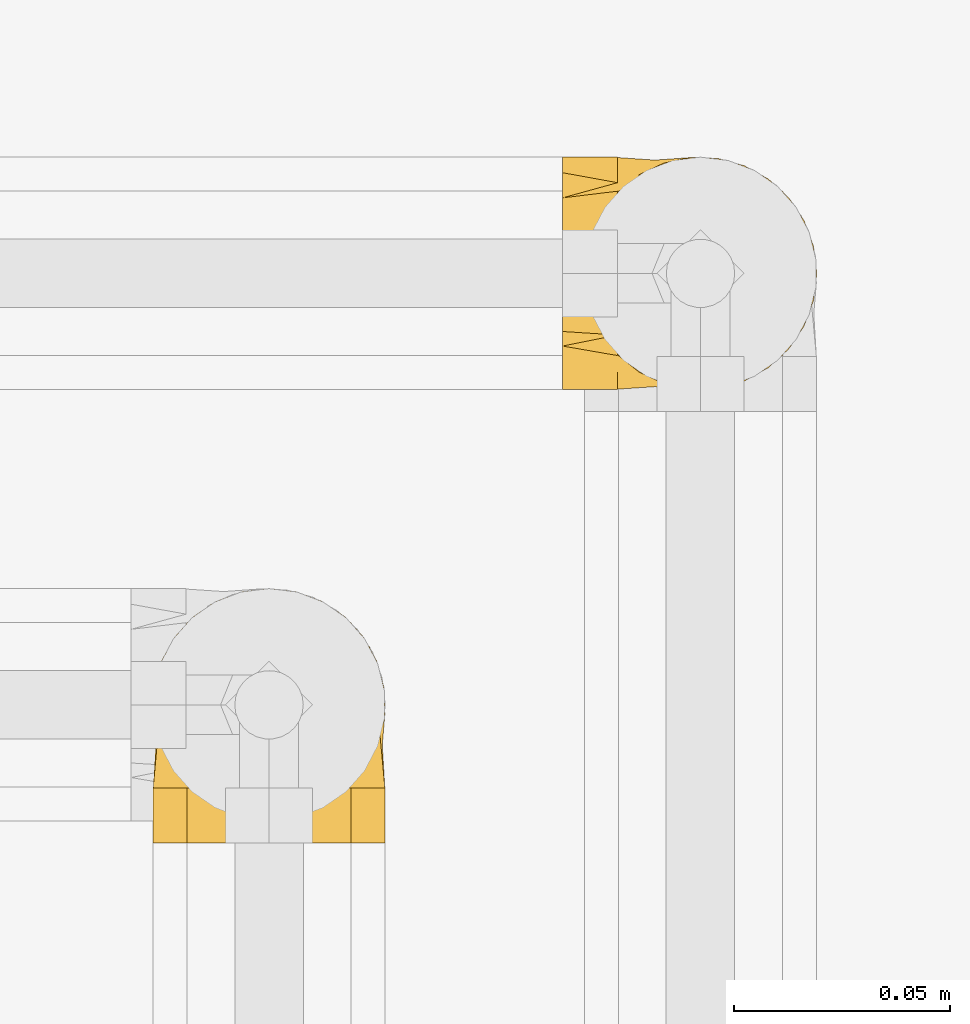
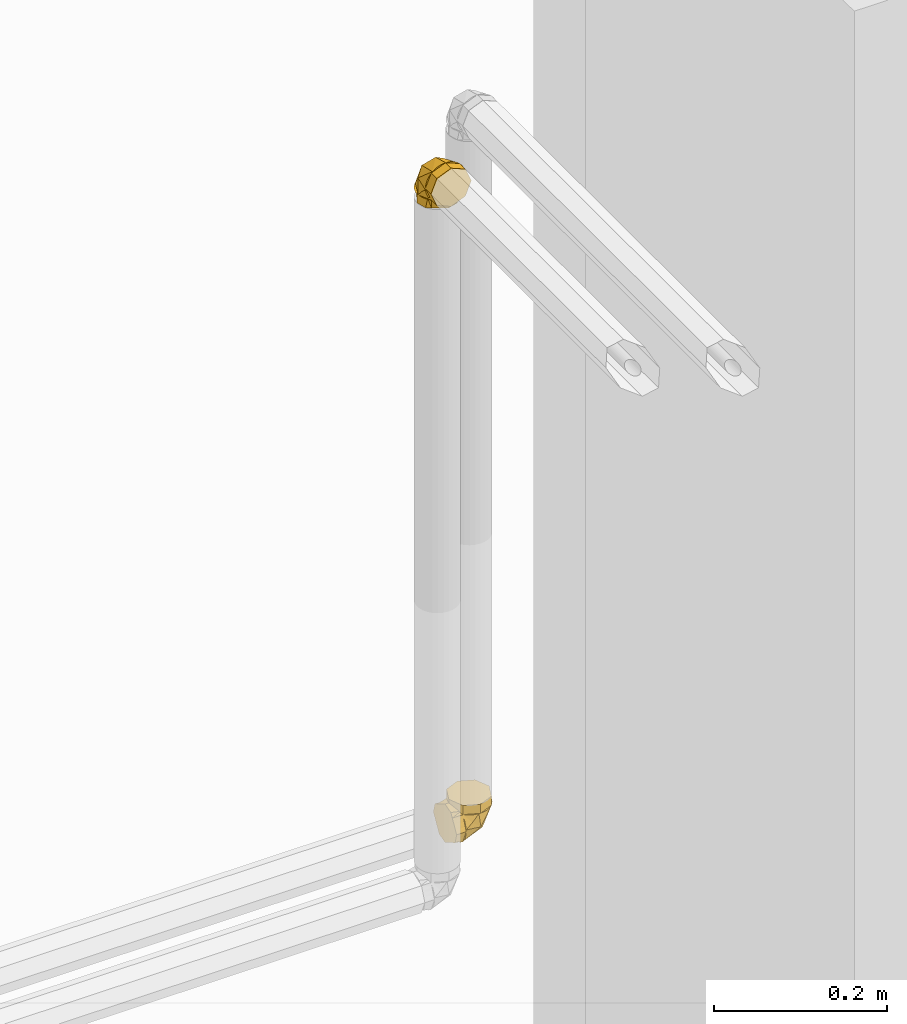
# One storey, part 377 of 652: 2 coverings.
"""IFC2X3 building model written with IfcOpenShell, lengths in millimetres."""

from ifc_helpers import new_model, entity, si_unit, converted_unit, direction, frame, origin, place, context, subcontext, project, spatial, face_set, surface_model, material, type_object, element, save


model = new_model("IFC2X3")

# Units and contexts
model_context = context("Model", 3, precision=0.01, world=frame((0.0, 0.0, 308426.39999999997)), true_north=direction((6.123233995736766e-17, 1.0)))
plan_context = context("Plan", 3, precision=0.01, world=frame((0.0, 0.0, 308426.39999999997)), true_north=direction((6.123233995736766e-17, 1.0)))
body_context = subcontext(model_context, "Body", "Model", "MODEL_VIEW")
ifc_project = project(units=[si_unit("LENGTHUNIT", "METRE", prefix="MILLI"), si_unit("AREAUNIT", "SQUARE_METRE"), si_unit("VOLUMEUNIT", "CUBIC_METRE"), converted_unit("PLANEANGLEUNIT", "DEGREE", entity("IfcPlaneAngleMeasure", 0.017453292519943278), si_unit("PLANEANGLEUNIT", "RADIAN"), dimensions=[0, 0, 0, 0, 0, 0, 0])], contexts=[model_context, plan_context])

# Site, building, storey
site_placement = place(None, origin())
site = spatial("IfcSite", under=ifc_project, at=site_placement, Name="Default", CompositionType="ELEMENT")
building_placement = place(site_placement, origin())
building = spatial("IfcBuilding", under=site, at=building_placement, CompositionType="ELEMENT")
storey_placement = place(building_placement, frame((0.0, 0.0, 1730.6999999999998)))
storey = spatial("IfcBuildingStorey", under=building, at=storey_placement, Name="EG_Produktion_FFB", CompositionType="ELEMENT", Elevation=1730.6999999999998)

# Coverings
ifc_material = material(Name="Dämmung - Armaflex-Schlauch")
covering_type = type_object("IfcCoveringType", Name="Rohrdämmung außen:Armaflex-Schlauch", PredefinedType="INSULATION")
covering_1_placement = place(storey_placement, frame((52368.016249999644, 50393.50378550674, 2671.4672277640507)))
element("IfcCovering", 1, at=covering_1_placement, inside=storey, type_object=covering_type, material=ifc_material, Name="Rohrdämmung außen:Armaflex-Schlauch", ObjectType="Rohrdämmung außen:Armaflex-Schlauch", PredefinedType="INSULATION", context=body_context, shape_type="SurfaceModel", body=[
    surface_model("IfcFaceBasedSurfaceModel", [(12.766249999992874, 9.65642195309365, 47.750272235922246), (17.724287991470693, 5.678961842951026, 47.750272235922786), (23.47627931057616, 2.973980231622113, 47.750272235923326), (29.70195853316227, 1.6920879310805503, 47.75027223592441), (36.054685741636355, 1.904659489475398, 47.75027223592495), (42.1807471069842, 3.599859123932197, 47.75027223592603), (47.7390493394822, 6.683299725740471, 47.75027223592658), (52.420111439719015, 10.983298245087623, 47.75027223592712), (55.963296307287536, 16.26043484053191, 47.75027223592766), (58.17132276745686, 22.220883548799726, 47.75027223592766), (58.921249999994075, 28.532772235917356, 47.75027223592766), (58.17132276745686, 34.844660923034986, 47.75027223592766), (55.963296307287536, 40.8051096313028, 47.75027223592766), (52.420111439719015, 46.08224622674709, 47.75027223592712), (47.7390493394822, 50.38224474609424, 47.75027223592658), (42.1807471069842, 53.465685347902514, 47.75027223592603), (36.054685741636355, 55.16088498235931, 47.75027223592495), (29.70195853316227, 55.37345654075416, 47.75027223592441), (23.47627931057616, 54.0915642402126, 47.750272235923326), (17.724287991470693, 51.38658262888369, 47.750272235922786), (12.766249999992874, 47.409122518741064, 47.750272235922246), (12.766249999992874, 51.38658262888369, 42.79223424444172), (12.766249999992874, 54.0915642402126, 37.04024292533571), (12.766249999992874, 55.37345654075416, 30.81456370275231), (12.766249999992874, 55.16088498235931, 24.46183649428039), (12.766249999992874, 53.465685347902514, 18.33577512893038), (12.766249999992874, 50.38224474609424, 12.777472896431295), (12.766250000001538, 46.08224622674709, 8.096410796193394), (12.766250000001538, 40.8051096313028, 4.553225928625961), (12.766250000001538, 34.844660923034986, 2.3451994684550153), (12.766250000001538, 28.532772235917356, 1.5952722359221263), (12.766250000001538, 22.220883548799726, 2.3451994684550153), (12.766250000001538, 16.26043484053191, 4.553225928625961), (12.766250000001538, 10.983298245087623, 8.096410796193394), (12.766249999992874, 6.683299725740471, 12.777472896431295), (12.766249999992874, 3.599859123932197, 18.33577512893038), (12.766249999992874, 1.904659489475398, 24.46183649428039), (12.766249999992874, 1.6920879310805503, 30.81456370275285), (12.766249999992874, 2.973980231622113, 37.04024292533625), (12.766249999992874, 5.678961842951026, 42.79223424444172), (21.446420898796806, 2.2759264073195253, 37.80740068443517), (52.73753418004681, 28.534788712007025, 24.672737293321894), (33.566611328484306, 3.601426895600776, 26.951086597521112), (41.059177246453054, 6.336143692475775, 47.750398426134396), (31.031882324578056, 28.534788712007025, 12.139781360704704), (41.84052490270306, 14.284495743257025, 17.33248765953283), (12.767880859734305, 6.336143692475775, 19.455613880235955), (41.84052490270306, 42.78043080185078, 17.33248765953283), (33.566611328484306, 53.46349964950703, 26.951086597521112), (21.446420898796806, 54.78900013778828, 37.80740068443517), (12.767880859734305, 50.72878285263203, 19.455613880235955), (41.059177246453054, 50.72878285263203, 47.750398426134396), (53.00389168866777, 14.247005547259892, 60.51652223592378), (54.97634445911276, 19.008927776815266, 60.51652223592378), (56.94879722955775, 23.770850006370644, 60.51652223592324), (58.921250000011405, 28.532772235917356, 60.5165222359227), (56.94879722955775, 33.29469446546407, 60.51652223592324), (54.97634445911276, 38.05661669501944, 60.51652223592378), (53.00389168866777, 42.81853892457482, 60.51652223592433), (51.03143891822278, 47.5804611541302, 60.51652223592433), (46.26951668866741, 49.552913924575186, 60.51652223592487), (41.507594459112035, 51.525366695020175, 60.51652223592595), (36.74567222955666, 53.49781946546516, 60.51652223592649), (31.983750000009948, 55.47027223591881, 60.516522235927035), (27.221827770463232, 53.497819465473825, 60.516522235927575), (22.459905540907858, 51.525366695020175, 60.516522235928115), (17.697983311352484, 49.552913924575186, 60.516522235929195), (12.936061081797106, 47.5804611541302, 60.51652223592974), (10.963608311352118, 42.81853892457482, 60.51652223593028), (8.99115554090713, 38.05661669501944, 60.51652223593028), (7.018702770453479, 33.29469446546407, 60.51652223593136), (5.046250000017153, 28.532772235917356, 60.51652223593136), (7.018702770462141, 23.77085000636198, 60.51652223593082), (8.99115554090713, 19.008927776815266, 60.51652223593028), (10.963608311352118, 14.247005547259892, 60.51652223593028), (12.936061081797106, 9.485083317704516, 60.51652223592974), (17.697983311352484, 7.512630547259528, 60.516522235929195), (22.459905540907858, 5.54017777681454, 60.516522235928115), (27.22182777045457, 3.567725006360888, 60.516522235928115), (31.983750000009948, 1.5952722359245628, 60.516522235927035), (36.74567222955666, 3.567725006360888, 60.51652223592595), (41.507594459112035, 5.54017777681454, 60.51652223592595), (46.26951668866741, 7.512630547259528, 60.51652223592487), (51.03143891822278, 9.485083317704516, 60.51652223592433), (58.92125000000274, 28.532772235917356, 47.75027223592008), (56.94879722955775, 23.77085000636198, 47.75027223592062), (54.97634445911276, 19.008927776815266, 47.750272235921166), (53.00389168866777, 14.247005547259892, 47.750272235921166), (51.03143891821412, 9.485083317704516, 47.750272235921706), (45.26304951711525, 7.095738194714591, 47.750272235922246), (39.49466011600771, 4.706393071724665, 47.750272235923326), (31.983750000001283, 1.5952722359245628, 47.75027223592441), (27.22182777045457, 3.567725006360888, 47.75027223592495), (22.459905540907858, 5.54017777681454, 47.75027223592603), (17.697983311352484, 7.512630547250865, 47.75027223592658), (12.936061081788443, 9.485083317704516, 47.75027223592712), (10.546715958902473, 15.253472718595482, 47.75027223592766), (8.157370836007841, 21.021862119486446, 47.75027223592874), (5.046250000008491, 28.532772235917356, 47.75027223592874), (7.018702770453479, 33.29469446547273, 47.7502722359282), (8.99115554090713, 38.05661669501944, 47.7502722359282), (10.963608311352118, 42.81853892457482, 47.7502722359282), (12.936061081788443, 47.5804611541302, 47.75027223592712), (18.704450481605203, 49.96980627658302, 47.75027223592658), (24.472839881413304, 52.359151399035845, 47.75027223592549), (31.983750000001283, 55.47027223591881, 47.75027223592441), (36.74567222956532, 53.497819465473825, 47.75027223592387), (41.507594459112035, 51.525366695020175, 47.750272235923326), (46.26951668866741, 49.552913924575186, 47.750272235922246), (51.03143891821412, 47.5804611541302, 47.750272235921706), (53.420784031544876, 41.81207177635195, 47.750272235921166), (55.81012914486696, 36.0436823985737, 47.750272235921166), (0.0, 28.532772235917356, 1.5952722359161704), (0.0, 22.700632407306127, 4.962459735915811), (0.0, 16.868492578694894, 8.329647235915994), (0.0, 11.036352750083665, 11.696834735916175), (0.0, 5.204212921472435, 15.064022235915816), (0.0, 3.3997425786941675, 21.798397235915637), (0.0, 1.5952722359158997, 28.532772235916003), (0.0, 4.962459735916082, 34.36491206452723), (0.0, 8.329647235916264, 40.19705189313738), (0.0, 11.696834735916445, 46.02919172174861), (0.0, 15.064022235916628, 51.861331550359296), (0.0, 21.79839723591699, 53.66580189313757), (0.0, 28.532772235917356, 55.470272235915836), (0.0, 34.36491206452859, 52.10308473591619), (0.0, 40.197051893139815, 48.73589723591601), (0.0, 46.02919172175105, 45.36870973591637), (0.0, 51.86133155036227, 42.00152223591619), (0.0, 53.66580189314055, 35.26714723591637), (0.0, 55.47027223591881, 28.532772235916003), (0.0, 52.10308473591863, 22.700632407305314), (0.0, 48.73589723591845, 16.868492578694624), (0.0, 45.368709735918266, 11.036352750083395), (0.0, 42.00152223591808, 5.204212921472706), (0.0, 35.26714723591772, 3.3997425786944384), (12.766250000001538, 28.532772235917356, 1.5952722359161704), (12.766250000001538, 33.29469446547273, 3.567725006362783), (12.766250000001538, 38.05661669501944, 5.540177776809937), (12.766250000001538, 42.81853892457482, 7.512630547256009), (12.766250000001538, 47.5804611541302, 9.485083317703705), (12.766250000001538, 49.552913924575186, 14.247005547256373), (12.766250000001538, 51.525366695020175, 19.008927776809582), (12.766250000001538, 53.49781946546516, 23.770850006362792), (12.766250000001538, 55.47027223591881, 28.532772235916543), (12.766250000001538, 53.497819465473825, 33.29469446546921), (12.766250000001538, 51.525366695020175, 38.05661669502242), (12.766250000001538, 49.552913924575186, 42.818538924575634), (12.766250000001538, 47.5804611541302, 47.58046115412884), (12.766250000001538, 42.81853892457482, 49.552913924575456), (12.766250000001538, 38.05661669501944, 51.525366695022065), (12.766250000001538, 33.29469446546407, 53.49781946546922), (12.766250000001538, 28.532772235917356, 55.470272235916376), (12.766250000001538, 23.770850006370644, 53.49781946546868), (12.766250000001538, 19.008927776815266, 51.525366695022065), (12.766250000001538, 14.247005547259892, 49.552913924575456), (12.766250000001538, 9.485083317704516, 47.58046115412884), (12.766250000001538, 7.512630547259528, 42.818538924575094), (12.766250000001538, 5.54017777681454, 38.05661669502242), (12.766250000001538, 3.567725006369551, 33.29469446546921), (12.766250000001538, 1.5952722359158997, 28.532772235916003), (12.766250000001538, 3.567725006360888, 23.770850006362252), (12.766250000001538, 5.54017777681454, 19.008927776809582), (12.766250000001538, 7.512630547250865, 14.247005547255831), (12.766250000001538, 9.485083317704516, 9.485083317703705), (12.766250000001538, 14.247005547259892, 7.512630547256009), (12.766250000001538, 19.008927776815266, 5.540177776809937), (12.766250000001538, 23.77085000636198, 3.5677250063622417)], [face_set([[[0, 1, 2, 3, 4, 5, 6, 7, 8, 9, 10, 11, 12, 13, 14, 15, 16, 17, 18, 19]], [[20, 21, 22, 23, 24, 25, 26, 27, 28, 29, 30, 31, 32, 33, 34, 35, 36, 37, 38, 39]], [[0, 40, 3]], [[10, 7, 41]], [[37, 42, 40]], [[42, 7, 43]], [[37, 40, 0]], [[3, 40, 42]], [[44, 41, 45]], [[7, 45, 41]], [[33, 30, 44]], [[44, 45, 33]], [[42, 33, 45]], [[42, 37, 46]], [[7, 42, 45]], [[43, 3, 42]], [[46, 33, 42]], [[13, 10, 41]], [[27, 47, 44]], [[44, 30, 27]], [[48, 47, 27]], [[49, 48, 23]], [[48, 50, 23]], [[44, 47, 41]], [[20, 49, 23]], [[47, 48, 13]], [[17, 49, 20]], [[41, 47, 13]], [[48, 17, 51]], [[48, 27, 50]], [[17, 48, 49]], [[51, 13, 48]]]), face_set([[[52, 53, 54, 55, 56, 57, 58, 59, 60, 61, 62, 63, 64, 65, 66, 67, 68, 69, 70, 71, 72, 73, 74, 75, 76, 77, 78, 79, 80, 81, 82, 83]], [[84, 85, 86, 87, 88, 89, 90, 91, 92, 93, 94, 95, 96, 97, 98, 99, 100, 101, 102, 103, 104, 105, 106, 107, 108, 109, 110, 111]], [[111, 110, 109, 59, 58, 57, 56, 55, 84]], [[59, 109, 108, 107, 106, 105, 63, 62, 61, 60]], [[104, 103, 102, 67, 66, 65, 64, 63, 105]], [[67, 102, 101, 100, 99, 98, 71, 70, 69, 68]], [[97, 96, 95, 75, 74, 73, 72, 71, 98]], [[75, 95, 94, 93, 92, 91, 79, 78, 77, 76]], [[90, 89, 88, 83, 82, 81, 80, 79, 91]], [[83, 88, 87, 86, 85, 84, 55, 54, 53, 52]]]), face_set([[[112, 113, 114, 115, 116, 117, 118, 119, 120, 121, 122, 123, 124, 125, 126, 127, 128, 129, 130, 131, 132, 133, 134, 135]], [[136, 137, 138, 139, 140, 141, 142, 143, 144, 145, 146, 147, 148, 149, 150, 151, 152, 153, 154, 155, 156, 157, 158, 159, 160, 161, 162, 163, 164, 165, 166, 167]], [[155, 121, 156]], [[118, 159, 119]], [[159, 158, 119]], [[123, 154, 153]], [[153, 152, 124]], [[121, 155, 122]], [[120, 158, 157]], [[118, 160, 159]], [[158, 120, 119]], [[124, 123, 153]], [[157, 156, 121]], [[155, 154, 122]], [[123, 122, 154]], [[120, 157, 121]], [[163, 115, 164]], [[112, 167, 113]], [[167, 166, 113]], [[117, 162, 161]], [[161, 160, 118]], [[115, 163, 116]], [[114, 166, 165]], [[112, 136, 167]], [[166, 114, 113]], [[118, 117, 161]], [[165, 164, 115]], [[163, 162, 116]], [[117, 116, 162]], [[114, 165, 115]], [[139, 133, 140]], [[130, 143, 131]], [[143, 142, 131]], [[135, 138, 137]], [[137, 136, 112]], [[133, 139, 134]], [[132, 142, 141]], [[130, 144, 143]], [[142, 132, 131]], [[112, 135, 137]], [[141, 140, 133]], [[139, 138, 134]], [[135, 134, 138]], [[132, 141, 133]], [[147, 127, 148]], [[124, 151, 125]], [[151, 150, 125]], [[129, 146, 145]], [[145, 144, 130]], [[127, 147, 128]], [[126, 150, 149]], [[124, 152, 151]], [[150, 126, 125]], [[130, 129, 145]], [[149, 148, 127]], [[147, 146, 128]], [[129, 128, 146]], [[126, 149, 127]]])]),
])
covering_2_placement = place(storey_placement, frame((52271.46722776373, 50290.05280774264, 3728.5327722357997)))
element("IfcCovering", 2, at=covering_2_placement, inside=storey, type_object=covering_type, material=ifc_material, Name="Rohrdämmung außen:Armaflex-Schlauch", ObjectType="Rohrdämmung außen:Armaflex-Schlauch", PredefinedType="INSULATION", context=body_context, shape_type="SurfaceModel", body=[
    surface_model("IfcFaceBasedSurfaceModel", [(47.409122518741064, 12.766250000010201, -47.75027223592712), (51.38658262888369, 12.766250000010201, -42.79223424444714), (54.0915642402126, 12.766250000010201, -37.040242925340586), (55.37345654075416, 12.766250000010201, -30.814563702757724), (55.16088498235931, 12.766250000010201, -24.461836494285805), (53.465685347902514, 12.766250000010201, -18.335775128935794), (50.38224474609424, 12.766250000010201, -12.77747289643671), (46.08224622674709, 12.766250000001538, -8.096410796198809), (40.8051096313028, 12.766250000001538, -4.553225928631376), (34.844660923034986, 12.766250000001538, -2.3451994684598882), (28.532772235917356, 12.766250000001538, -1.595272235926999), (22.220883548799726, 12.766250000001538, -2.3451994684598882), (16.26043484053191, 12.766250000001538, -4.553225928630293), (10.983298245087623, 12.766250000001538, -8.096410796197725), (6.683299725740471, 12.766250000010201, -12.77747289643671), (3.599859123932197, 12.766250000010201, -18.33577512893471), (1.904659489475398, 12.766250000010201, -24.461836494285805), (1.6920879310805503, 12.766250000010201, -30.814563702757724), (2.973980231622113, 12.766250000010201, -37.040242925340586), (5.678961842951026, 12.766250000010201, -42.79223424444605), (9.65642195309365, 12.766250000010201, -47.75027223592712), (5.678961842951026, 17.72428799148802, -47.75027223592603), (2.973980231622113, 23.476279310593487, -47.75027223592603), (1.6920879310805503, 29.701958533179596, -47.75027223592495), (1.904659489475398, 36.05468574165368, -47.75027223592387), (3.599859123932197, 42.18074710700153, -47.75027223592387), (6.683299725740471, 47.73904933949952, -47.750272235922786), (10.983298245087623, 52.420111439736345, -47.750272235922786), (16.26043484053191, 55.96329630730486, -47.750272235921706), (22.220883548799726, 58.17132276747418, -47.750272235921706), (28.532772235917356, 58.921250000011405, -47.750272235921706), (34.844660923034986, 58.17132276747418, -47.750272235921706), (40.8051096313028, 55.96329630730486, -47.750272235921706), (46.08224622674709, 52.420111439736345, -47.750272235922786), (50.38224474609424, 47.73904933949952, -47.750272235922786), (53.465685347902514, 42.18074710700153, -47.75027223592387), (55.16088498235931, 36.05468574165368, -47.75027223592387), (55.37345654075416, 29.701958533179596, -47.75027223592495), (54.0915642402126, 23.476279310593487, -47.75027223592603), (51.38658262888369, 17.72428799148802, -47.75027223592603), (54.789998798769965, 22.70871569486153, -39.069426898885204), (28.531136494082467, 35.842797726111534, -7.778894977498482), (50.729781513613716, 12.765136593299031, -19.455507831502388), (53.464498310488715, 33.563867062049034, -26.950980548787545), (42.78142946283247, 43.18188464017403, -18.674741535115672), (28.531136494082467, 48.376916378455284, -29.486290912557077), (50.729781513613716, 41.06108385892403, -47.750292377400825), (14.285494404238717, 43.18188464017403, -18.674741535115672), (3.5977746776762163, 33.563867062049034, -26.950980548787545), (2.276925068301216, 22.70871569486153, -39.069426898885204), (6.337142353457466, 41.06108385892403, -47.750292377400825), (6.337142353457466, 12.765136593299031, -19.455507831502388), (28.532772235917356, 0.0, -1.5952722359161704), (23.77085000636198, 0.0, -3.567725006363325), (19.008927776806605, 0.0, -5.540177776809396), (14.247005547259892, 0.0, -7.51263054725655), (9.485083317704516, 0.0, -9.485083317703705), (7.512630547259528, 0.0, -14.247005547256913), (5.540177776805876, 0.0, -19.008927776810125), (3.567725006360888, 0.0, -23.770850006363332), (1.5952722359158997, 0.0, -28.532772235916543), (3.567725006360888, 0.0, -33.29469446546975), (5.540177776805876, 0.0, -38.05661669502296), (7.512630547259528, 0.0, -42.818538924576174), (9.485083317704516, 0.0, -47.58046115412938), (14.247005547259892, 0.0, -49.552913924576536), (19.008927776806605, 0.0, -51.52536669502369), (23.77085000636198, 0.0, -53.49781946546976), (28.532772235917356, 0.0, -55.470272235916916), (33.29469446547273, 0.0, -53.49781946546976), (38.056616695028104, 0.0, -51.52536669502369), (42.818538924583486, 0.0, -49.552913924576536), (47.5804611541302, 0.0, -47.58046115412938), (49.552913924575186, 0.0, -42.818538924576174), (51.525366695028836, 0.0, -38.05661669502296), (53.497819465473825, 0.0, -33.29469446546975), (55.47027223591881, 0.0, -28.532772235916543), (53.497819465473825, 0.0, -23.770850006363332), (51.525366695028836, 0.0, -19.008927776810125), (49.552913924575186, 0.0, -14.247005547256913), (47.5804611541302, 0.0, -9.485083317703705), (42.81853892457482, 0.0, -7.51263054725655), (38.056616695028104, 0.0, -5.540177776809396), (33.29469446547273, 0.0, -3.567725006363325), (28.532772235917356, 12.766250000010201, -1.5952722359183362), (33.29469446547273, 12.766250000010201, -3.567725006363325), (38.056616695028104, 12.766250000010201, -5.540177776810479), (42.81853892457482, 12.766250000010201, -7.512630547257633), (47.5804611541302, 12.766250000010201, -9.48508331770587), (49.96980627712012, 12.766250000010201, -15.25347271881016), (52.35915140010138, 12.766250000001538, -21.021862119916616), (55.47027223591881, 12.766250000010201, -28.53277223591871), (53.497819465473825, 12.766250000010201, -33.29469446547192), (51.525366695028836, 12.766250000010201, -38.05661669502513), (49.552913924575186, 12.766250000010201, -42.81853892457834), (47.5804611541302, 12.766250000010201, -47.58046115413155), (41.81207175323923, 12.766250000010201, -49.96980627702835), (36.04368235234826, 12.766250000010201, -52.35915139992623), (28.532772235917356, 12.766250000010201, -55.47027223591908), (23.77085000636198, 12.766250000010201, -53.49781946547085), (19.008927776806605, 12.766250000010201, -51.52536669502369), (14.247005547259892, 12.766250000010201, -49.552913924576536), (9.485083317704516, 12.766250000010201, -47.58046115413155), (7.095738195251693, 12.766250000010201, -41.81207175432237), (4.706393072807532, 12.766250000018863, -36.04368235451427), (1.5952722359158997, 12.766250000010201, -28.53277223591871), (3.567725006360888, 12.766250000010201, -23.7708500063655), (5.540177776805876, 12.766250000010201, -19.00892777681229), (7.512630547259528, 12.766250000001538, -14.24700554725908), (9.485083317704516, 12.766250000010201, -9.48508331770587), (15.253472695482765, 12.766250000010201, -7.09573820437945), (21.021862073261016, 12.766250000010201, -4.7063930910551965), (28.532772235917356, 58.921250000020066, -60.51652223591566), (34.36491206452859, 55.55406250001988, -60.51652223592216), (40.197051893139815, 52.186875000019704, -60.51652223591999), (46.02919172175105, 48.81968750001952, -60.516522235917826), (51.86133155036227, 45.452500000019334, -60.51652223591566), (53.66580189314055, 38.71812500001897, -60.51652223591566), (55.47027223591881, 31.98375000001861, -60.51652223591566), (52.10308473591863, 26.15161017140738, -60.51652223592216), (48.73589723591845, 20.319470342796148, -60.51652223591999), (45.368709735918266, 14.487330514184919, -60.516522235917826), (42.00152223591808, 8.65519068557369, -60.51652223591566), (35.26714723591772, 6.850720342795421, -60.51652223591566), (28.532772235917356, 5.046250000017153, -60.51652223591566), (22.700632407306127, 8.413437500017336, -60.51652223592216), (16.868492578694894, 11.780625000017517, -60.51652223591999), (11.036352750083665, 15.1478125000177, -60.516522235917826), (5.204212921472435, 18.51500000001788, -60.51652223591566), (3.3997425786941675, 25.249375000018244, -60.51652223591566), (1.5952722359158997, 31.98375000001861, -60.51652223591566), (4.962459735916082, 37.81588982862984, -60.51652223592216), (8.329647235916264, 43.64802965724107, -60.51652223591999), (11.696834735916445, 49.4801694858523, -60.516522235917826), (15.064022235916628, 55.312309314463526, -60.51652223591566), (21.79839723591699, 57.1167796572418, -60.51652223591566), (28.532772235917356, 58.921250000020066, -47.75027223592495), (23.77085000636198, 56.94879722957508, -47.75027223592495), (19.008927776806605, 54.97634445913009, -47.75027223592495), (14.247005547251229, 53.00389168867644, -47.75027223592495), (9.485083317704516, 51.03143891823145, -47.75027223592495), (7.512630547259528, 46.26951668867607, -47.75027223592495), (5.540177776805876, 41.50759445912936, -47.75027223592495), (3.567725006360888, 36.745672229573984, -47.75027223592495), (1.5952722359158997, 31.98375000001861, -47.75027223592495), (3.567725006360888, 27.221827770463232, -47.75027223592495), (5.540177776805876, 22.459905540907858, -47.75027223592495), (7.512630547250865, 17.697983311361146, -47.75027223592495), (9.485083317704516, 12.93606108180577, -47.75027223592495), (14.247005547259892, 10.963608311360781, -47.75027223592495), (19.008927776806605, 8.99115554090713, -47.75027223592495), (23.77085000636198, 7.018702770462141, -47.75027223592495), (28.532772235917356, 5.046250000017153, -47.75027223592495), (33.29469446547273, 7.018702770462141, -47.75027223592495), (38.056616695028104, 8.99115554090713, -47.75027223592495), (42.81853892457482, 10.963608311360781, -47.75027223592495), (47.5804611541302, 12.93606108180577, -47.75027223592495), (49.55291392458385, 17.697983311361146, -47.75027223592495), (51.525366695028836, 22.459905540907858, -47.75027223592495), (53.497819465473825, 27.221827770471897, -47.75027223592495), (55.47027223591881, 31.98375000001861, -47.75027223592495), (53.497819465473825, 36.745672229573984, -47.75027223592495), (51.525366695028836, 41.50759445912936, -47.75027223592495), (49.552913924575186, 46.26951668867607, -47.75027223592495), (47.5804611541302, 51.03143891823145, -47.75027223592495), (42.81853892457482, 53.00389168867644, -47.75027223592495), (38.056616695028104, 54.97634445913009, -47.75027223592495), (33.29469446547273, 56.948797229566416, -47.75027223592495)], [face_set([[[0, 1, 2, 3, 4, 5, 6, 7, 8, 9, 10, 11, 12, 13, 14, 15, 16, 17, 18, 19]], [[20, 21, 22, 23, 24, 25, 26, 27, 28, 29, 30, 31, 32, 33, 34, 35, 36, 37, 38, 39]], [[0, 40, 3]], [[10, 7, 41]], [[42, 3, 43]], [[40, 43, 3]], [[37, 40, 0]], [[7, 43, 44]], [[45, 41, 44]], [[7, 44, 41]], [[33, 30, 45]], [[45, 44, 33]], [[43, 33, 44]], [[43, 37, 46]], [[43, 7, 42]], [[37, 43, 40]], [[46, 33, 43]], [[13, 10, 41]], [[27, 47, 45]], [[45, 30, 27]], [[48, 47, 27]], [[49, 48, 23]], [[50, 23, 48, 27]], [[45, 47, 41]], [[20, 49, 23]], [[47, 48, 13]], [[17, 49, 20]], [[41, 47, 13]], [[48, 17, 51, 13]], [[17, 48, 49]]]), face_set([[[52, 53, 54, 55, 56, 57, 58, 59, 60, 61, 62, 63, 64, 65, 66, 67, 68, 69, 70, 71, 72, 73, 74, 75, 76, 77, 78, 79, 80, 81, 82, 83]], [[84, 85, 86, 87, 88, 89, 90, 91, 92, 93, 94, 95, 96, 97, 98, 99, 100, 101, 102, 103, 104, 105, 106, 107, 108, 109, 110, 111]], [[111, 110, 109, 56, 55, 54, 53, 52, 84]], [[56, 109, 108, 107, 106, 105, 60, 59, 58, 57]], [[104, 103, 102, 64, 63, 62, 61, 60, 105]], [[64, 102, 101, 100, 99, 98, 68, 67, 66, 65]], [[97, 96, 95, 72, 71, 70, 69, 68, 98]], [[72, 95, 94, 93, 92, 91, 76, 75, 74, 73]], [[90, 89, 88, 80, 79, 78, 77, 76, 91]], [[80, 88, 87, 86, 85, 84, 52, 83, 82, 81]]]), face_set([[[112, 113, 114, 115, 116, 117, 118, 119, 120, 121, 122, 123, 124, 125, 126, 127, 128, 129, 130, 131, 132, 133, 134, 135]], [[136, 137, 138, 139, 140, 141, 142, 143, 144, 145, 146, 147, 148, 149, 150, 151, 152, 153, 154, 155, 156, 157, 158, 159, 160, 161, 162, 163, 164, 165, 166, 167]], [[155, 121, 156]], [[118, 159, 119]], [[159, 158, 119]], [[123, 154, 153]], [[153, 152, 124]], [[121, 155, 122]], [[120, 158, 157]], [[118, 160, 159]], [[158, 120, 119]], [[124, 123, 153]], [[157, 156, 121]], [[155, 154, 122]], [[123, 122, 154]], [[120, 157, 121]], [[163, 115, 164]], [[112, 167, 113]], [[167, 166, 113]], [[117, 162, 161]], [[161, 160, 118]], [[115, 163, 116]], [[114, 166, 165]], [[112, 136, 167]], [[166, 114, 113]], [[118, 117, 161]], [[165, 164, 115]], [[163, 162, 116]], [[117, 116, 162]], [[114, 165, 115]], [[139, 133, 140]], [[130, 143, 131]], [[143, 142, 131]], [[135, 138, 137]], [[137, 136, 112]], [[133, 139, 134]], [[132, 142, 141]], [[130, 144, 143]], [[142, 132, 131]], [[112, 135, 137]], [[141, 140, 133]], [[139, 138, 134]], [[135, 134, 138]], [[132, 141, 133]], [[147, 127, 148]], [[124, 151, 125]], [[151, 150, 125]], [[129, 146, 145]], [[145, 144, 130]], [[127, 147, 128]], [[126, 150, 149]], [[124, 152, 151]], [[150, 126, 125]], [[130, 129, 145]], [[149, 148, 127]], [[147, 146, 128]], [[129, 128, 146]], [[126, 149, 127]]])]),
])

save(model, "model.ifc")
